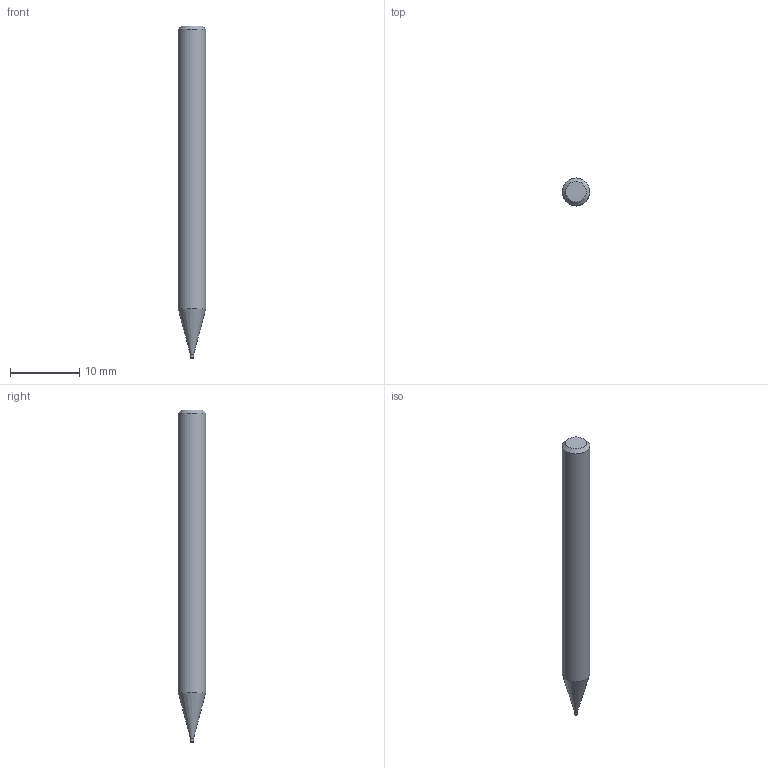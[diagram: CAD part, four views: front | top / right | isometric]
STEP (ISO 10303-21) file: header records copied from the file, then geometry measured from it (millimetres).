
FILE_DESCRIPTION((''),'2;1');
FILE_NAME('C:\Users\nsx150\AppData\Local\Temp\Mastercam 2021\LJSIDMOTM8\TEMP.step','2021-08-03T14:25:55',(''),(''),'STEP Write','Mastercam 2021 ... CNC Software, Inc.','');
FILE_SCHEMA(('AUTOMOTIVE_DESIGN'));
Length unit declared in the file: millimetre
Products named in the file (1): None
Bounding box: 4 x 4 x 48 mm (x, y, z)
Volume: 543.5 mm3; surface area: 571.4 mm2
Topology: 2 solids, 2 shells, 9 faces, 12 edges, 7 vertices
Faces by surface type: plane 4, cylinder 3, cone 2
Full cylindrical faces by diameter (mm): 0.45 x1, 0.5 x1, 4 x1
Entity records: 211 total; most frequent: DIRECTION 36, CARTESIAN_POINT 25, AXIS2_PLACEMENT_3D 18, ORIENTED_EDGE 14, EDGE_LOOP 14, STYLED_ITEM 12, ADVANCED_FACE 9, FACE_BOUND 8
